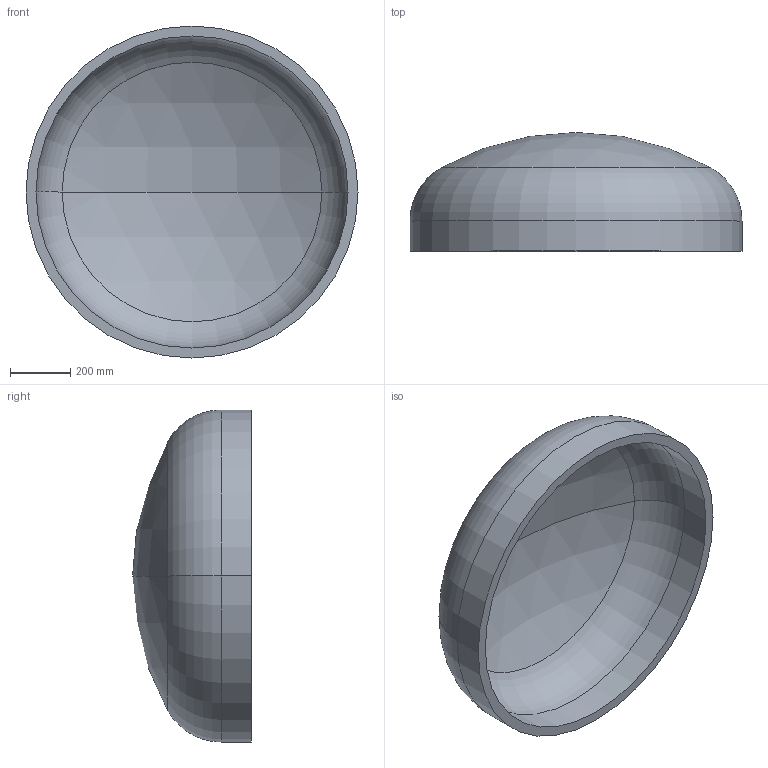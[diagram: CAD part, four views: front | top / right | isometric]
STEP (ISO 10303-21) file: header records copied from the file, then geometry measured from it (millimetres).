
FILE_DESCRIPTION (( 'STEP AP203' ), '1' );
FILE_NAME ('DIN 28013 Korbbogenform_-_Boden DIN 28013 - 1100 x 100 - I - s=33.step', '2016-07-01T09:06:01', ( '' ), ( '' ), 'SwSTEP 2.0', 'SolidWorks 2013', '' );
FILE_SCHEMA (( 'CONFIG_CONTROL_DESIGN' ));
Length unit declared in the file: millimetre
Products named in the file (1): DIN 28013 Korbbogenform_-_Boden DIN 28013 - 1100 x 100 - I - s=33
Bounding box: 1100 x 393.57 x 1100 mm (x, y, z)
Volume: 52856669.6 mm3; surface area: 3316333.1 mm2
Topology: 1 solids, 1 shells, 13 faces, 24 edges, 14 vertices
Faces by surface type: torus 4, cylinder 4, sphere 4, plane 1
Entity records: 407 total; most frequent: DIRECTION 72, CARTESIAN_POINT 52, ORIENTED_EDGE 48, AXIS2_PLACEMENT_3D 34, EDGE_CURVE 24, CIRCLE 20, VERTEX_POINT 14, EDGE_LOOP 14
